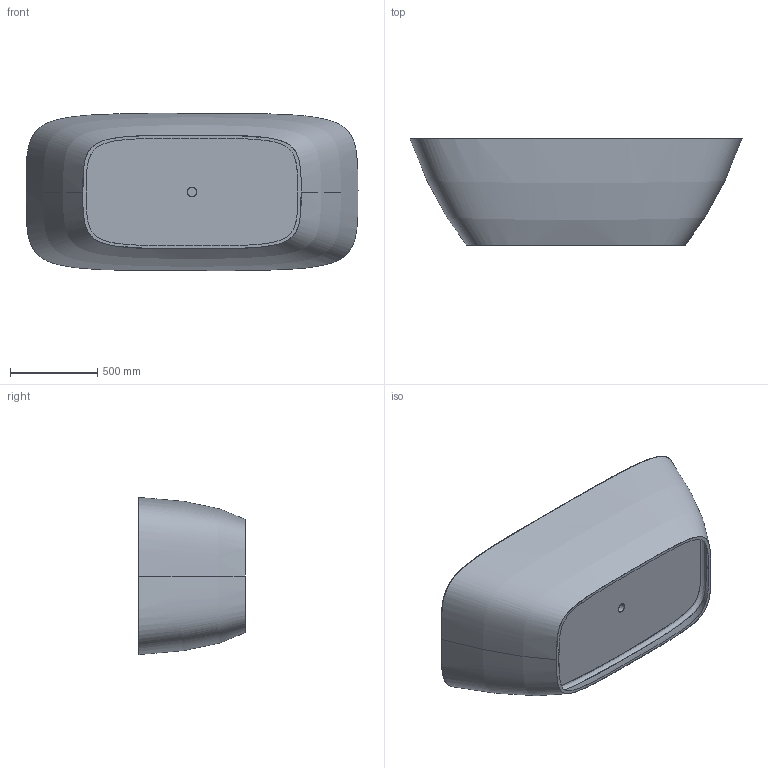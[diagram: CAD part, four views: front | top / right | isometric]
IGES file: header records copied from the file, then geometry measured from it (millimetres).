
Start section: SolidWorks IGES file using analytic representation for surfaces
Global section: file name: D:\Users\M.Szymanski\Desktop\Wanny\LaSenia\03. do przegrania\WP_LaSENIA_90x190.IGS; native system: SolidWorks 2011; preprocessor: SolidWorks 2011; author: M.Szymanski; date: 180522.120112; units: millimetre
Bounding box: 1899.51 x 610 x 899.91 mm (x, y, z)
Surface area: 7196263.3 mm2 (no closed solid volume)
Topology: 0 solids, 0 shells, 54 faces, 1855 edges, 1854 vertices
Faces by surface type: bspline 42, revolution 12
